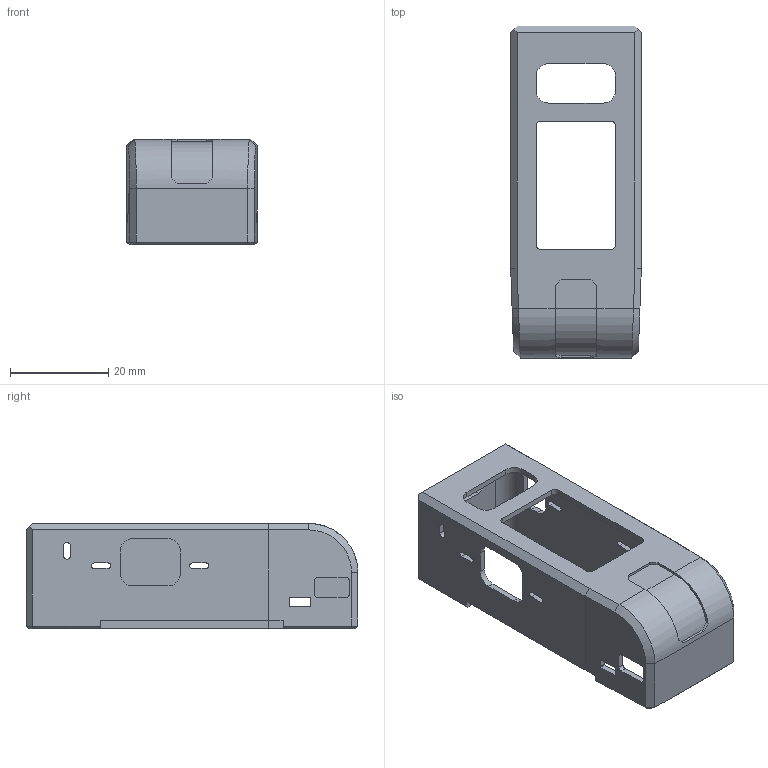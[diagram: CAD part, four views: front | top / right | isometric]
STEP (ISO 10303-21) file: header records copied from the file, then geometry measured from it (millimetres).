
FILE_DESCRIPTION(('Open CASCADE Model'),'2;1');
FILE_NAME('Open CASCADE Shape Model','2026-10-11T11:25:39',('Author'),( 'Open CASCADE'),'Open CASCADE STEP processor 7.9','Open CASCADE 7.9' ,'Unknown');
FILE_SCHEMA(('AUTOMOTIVE_DESIGN { 1 0 10303 214 1 1 1 1 }'));
Length unit declared in the file: millimetre
Products named in the file (1): Open CASCADE STEP translator 7.9 1
Bounding box: 26.6 x 67.6 x 21.4 mm (x, y, z)
Volume: 5206.3 mm3; surface area: 9174 mm2
Topology: 1 solids, 1 shells, 180 faces, 519 edges, 341 vertices
Faces by surface type: plane 105, cylinder 61, bspline 14
Entity records: 13081 total; most frequent: CARTESIAN_POINT 3504, DIRECTION 1554, ORIENTED_EDGE 1038, PCURVE 1038, DEFINITIONAL_REPRESENTATION 1038, LINE 878, VECTOR 878, EDGE_CURVE 519
